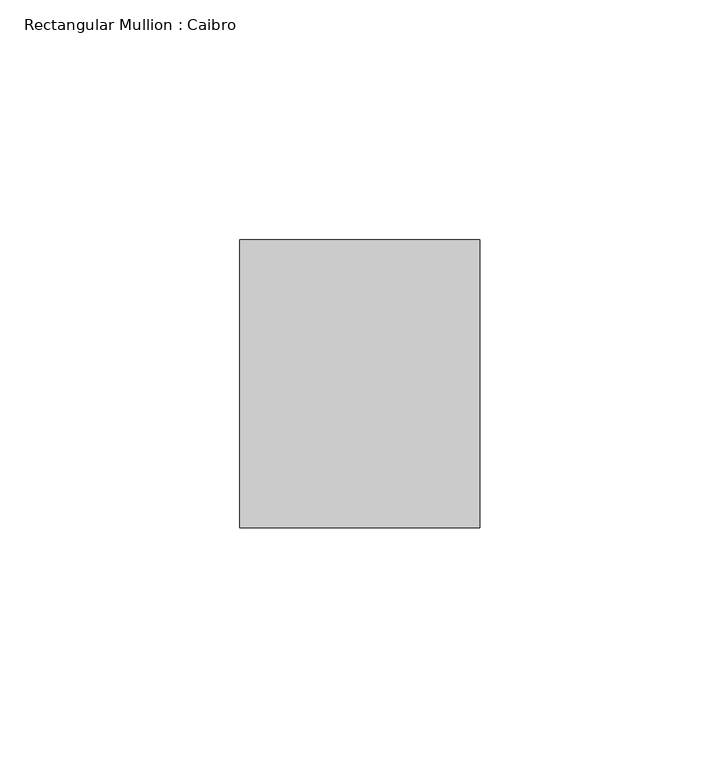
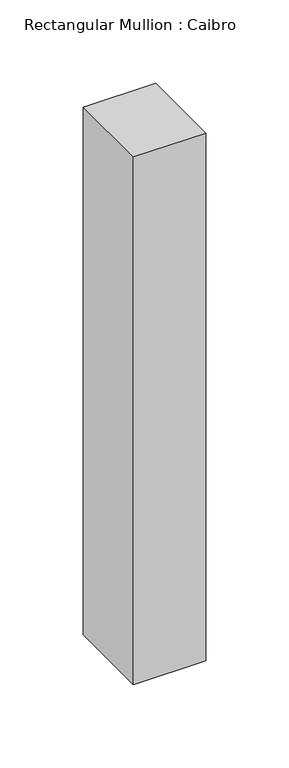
"""IFC4 building model written with IfcOpenShell, lengths in millimetres: member geometry, Rectangular Mullion : Caibro."""

import ifcopenshell
import ifcopenshell.guid

model = None  # the IFC model being written
_history = None  # IfcOwnerHistory: only IFC2X3 demands one
_inside = {}  # id of a spatial element -> (the spatial element, [elements in it])
_under = {}  # id of a project, library or spatial element -> (it, [spatial elements below it])
_declared = {}  # id of a project -> (the project, [libraries it declares])
_typed = {}  # id of a type object -> (the type object, [elements of that type])
_made_of = {}  # id of a material, layer set ... -> (it, [elements and type objects made of it])


def new_model(schema):
    """Start an empty IFC model of exactly this schema.

    Asked for "IFC4X3", IfcOpenShell would pick the latest addendum, in which some entities
    have other attributes; the version numbers below select the first issue.
    IFC2X3 requires an IfcOwnerHistory on every rooted entity: one is made here for all.
    """
    global model, _history
    if schema == "IFC4X3":
        model = ifcopenshell.file(schema_version=(4, 3, 0, 0))
    else:
        model = ifcopenshell.file(schema=schema)
    _inside.clear()
    _under.clear()
    _declared.clear()
    _typed.clear()
    _made_of.clear()
    _history = None
    if model.schema == "IFC2X3":
        org = make("IfcOrganization", Name="unknown")
        user = make(
            "IfcPersonAndOrganization",
            ThePerson=make("IfcPerson", FamilyName="unknown"),
            TheOrganization=org,
        )
        app = make(
            "IfcApplication",
            ApplicationDeveloper=org,
            Version="unknown",
            ApplicationFullName="unknown",
            ApplicationIdentifier="unknown",
        )
        _history = make(
            "IfcOwnerHistory",
            OwningUser=user,
            OwningApplication=app,
            ChangeAction="ADDED",
            CreationDate=0,
        )
    return model


def make(cls, **values):
    """One entity of the class cls with the attributes given. An attribute that is None is left unset."""
    return model.create_entity(
        cls, **{name: value for name, value in values.items() if value is not None}
    )


def rooted(cls, **values):
    """An entity with a GlobalId (a new one), such as an element, a storey or a relation."""
    return make(cls, GlobalId=ifcopenshell.guid.new(), OwnerHistory=_history, **values)


def si_unit(unit_type, name, prefix=None):
    """IfcSIUnit, for example si_unit("LENGTHUNIT", "METRE", prefix="MILLI")."""
    return make("IfcSIUnit", UnitType=unit_type, Prefix=prefix, Name=name)


def assignment(units):
    """IfcUnitAssignment: the units of a project."""
    return None if units is None else make("IfcUnitAssignment", Units=units)


def point(xyz):
    """IfcCartesianPoint."""
    return None if xyz is None else make("IfcCartesianPoint", Coordinates=xyz)


def direction(xyz):
    """IfcDirection."""
    return None if xyz is None else make("IfcDirection", DirectionRatios=xyz)


def frame(location, z_axis=None, x_axis=None):
    """IfcAxis2Placement3D, a coordinate frame: its origin and axes. An axis left out is left unset."""
    return make(
        "IfcAxis2Placement3D",
        Location=point(location),
        Axis=direction(z_axis),
        RefDirection=direction(x_axis),
    )


def origin():
    """The frame at (0, 0, 0) with its axes left unset."""
    return frame((0.0, 0.0, 0.0))


def place(relative_to, where):
    """IfcLocalPlacement: puts the frame where relative to a parent placement (None: the world)."""
    return make(
        "IfcLocalPlacement", PlacementRelTo=relative_to, RelativePlacement=where
    )


def context(
    kind, dimensions, precision=None, world=None, true_north=None, identifier=None
):
    """IfcGeometricRepresentationContext, for example the 3D "Model" context."""
    return make(
        "IfcGeometricRepresentationContext",
        ContextIdentifier=identifier,
        ContextType=kind,
        CoordinateSpaceDimension=dimensions,
        Precision=precision,
        WorldCoordinateSystem=world,
        TrueNorth=true_north,
    )


def project(units=None, contexts=None):
    """IfcProject with its units and contexts."""
    return rooted(
        "IfcProject",
        Name="project",
        RepresentationContexts=contexts,
        UnitsInContext=assignment(units),
    )


def spatial(cls, under=None, at=None, **own):
    """A site, building, storey or space (cls), placed at a placement, below another one or the project."""
    s = rooted(cls, ObjectPlacement=at, **own)
    if under is not None:
        _under.setdefault(under.id(), (under, []))[1].append(s)
    return s


def polyline(points):
    """IfcPolyline through the points."""
    return make("IfcPolyline", Points=[point(p) for p in points])


def outline(outer, holes=None, kind="AREA"):
    """IfcArbitraryClosedProfileDef: a profile drawn as a closed curve; with holes, ...WithVoids."""
    if holes is None:
        return make("IfcArbitraryClosedProfileDef", ProfileType=kind, OuterCurve=outer)
    return make(
        "IfcArbitraryProfileDefWithVoids",
        ProfileType=kind,
        OuterCurve=outer,
        InnerCurves=holes,
    )


def extrude(swept, where, along, depth):
    """IfcExtrudedAreaSolid: the profile swept, set in the frame where, extruded along a direction by depth."""
    return make(
        "IfcExtrudedAreaSolid",
        SweptArea=swept,
        Position=where,
        ExtrudedDirection=direction(along),
        Depth=depth,
    )


def shape(context_of_items, identifier, shape_type, items):
    """IfcShapeRepresentation: the items that make up one representation, for example the "Body"."""
    return make(
        "IfcShapeRepresentation",
        ContextOfItems=context_of_items,
        RepresentationIdentifier=identifier,
        RepresentationType=shape_type,
        Items=items,
    )


def source(mapping_origin, context_of_items, identifier, shape_type, items):
    """IfcRepresentationMap: a shape defined once, which mapped items show again and again."""
    return make(
        "IfcRepresentationMap",
        MappingOrigin=mapping_origin,
        MappedRepresentation=shape(context_of_items, identifier, shape_type, items),
    )


def transform(
    local_origin,
    x_axis=None,
    y_axis=None,
    z_axis=None,
    scale=None,
    scale2=None,
    scale3=None,
    uniform=True,
):
    """IfcCartesianTransformationOperator3D, or its non-uniform kind. x_axis, y_axis, z_axis: its Axis1, 2, 3."""
    if uniform:
        return make(
            "IfcCartesianTransformationOperator3D",
            Axis1=direction(x_axis),
            Axis2=direction(y_axis),
            LocalOrigin=point(local_origin),
            Scale=scale,
            Axis3=direction(z_axis),
        )
    return make(
        "IfcCartesianTransformationOperator3DnonUniform",
        Axis1=direction(x_axis),
        Axis2=direction(y_axis),
        LocalOrigin=point(local_origin),
        Scale=scale,
        Axis3=direction(z_axis),
        Scale2=scale2,
        Scale3=scale3,
    )


def mapped(mapping_source, mapping_target):
    """IfcMappedItem: shows the shape of a source again, moved by a transform."""
    return make(
        "IfcMappedItem", MappingSource=mapping_source, MappingTarget=mapping_target
    )


def made_of(thing, what):
    """Note that an element or type object is made of a material, layer set ...; save() writes the relation."""
    if what is not None:
        _made_of.setdefault(what.id(), (what, []))[1].append(thing)
    return thing


def element(
    cls,
    number,
    at=None,
    inside=None,
    cuts=None,
    type_object=None,
    material=None,
    context=None,
    identifier="Body",
    shape_type=None,
    held_by="IfcProductDefinitionShape",
    body=None,
    shapes=None,
    **own,
):
    """One element of the class cls, such as IfcWall. Its Tag is "e" and its number.

    at: its placement. inside: the storey or other place that contains it. cuts: it is an
    opening in that element (IfcRelVoidsElement). A single representation is given by context,
    identifier, shape_type and body (its items); several are given by shapes. held_by: the class
    of the entity that holds the representations. save() writes the other relations.
    """
    e = rooted(cls, Tag="e%d" % number, ObjectPlacement=at, **own)
    if body is not None:
        shapes = [shape(context, identifier, shape_type, body)]
    if shapes is not None:
        e.Representation = make(held_by, Representations=shapes)
    if inside is not None:
        _inside.setdefault(inside.id(), (inside, []))[1].append(e)
    if cuts is not None:
        rooted(
            "IfcRelVoidsElement", RelatingBuildingElement=cuts, RelatedOpeningElement=e
        )
    if type_object is not None:
        _typed.setdefault(type_object.id(), (type_object, []))[1].append(e)
    return made_of(e, material)


def aggregate(whole, parts):
    """IfcRelAggregates: a whole, such as a stair, and the parts it consists of."""
    return rooted("IfcRelAggregates", RelatingObject=whole, RelatedObjects=parts)


def save(model, path):
    """Write the relations noted so far, then the file.

    IfcRelAggregates (storeys below a building ...), IfcRelContainedInSpatialStructure (elements
    in a storey), IfcRelDefinesByType, IfcRelAssociatesMaterial and IfcRelDeclares: one each for
    every whole, place, type object, material and project.
    """
    for whole, parts in _under.values():
        aggregate(whole, parts)
    for where, things in _inside.values():
        rooted(
            "IfcRelContainedInSpatialStructure",
            RelatedElements=things,
            RelatingStructure=where,
        )
    for kind, things in _typed.values():
        rooted("IfcRelDefinesByType", RelatedObjects=things, RelatingType=kind)
    for what, things in _made_of.values():
        rooted("IfcRelAssociatesMaterial", RelatedObjects=things, RelatingMaterial=what)
    for by, libraries in _declared.values():
        rooted("IfcRelDeclares", RelatingContext=by, RelatedDefinitions=libraries)
    model.write(path)


def rectangular_mullion_caibro_7d910be2(model_context):
    return source(origin(), model_context, "Body", "SweptSolid", [
        extrude(outline(polyline([(-50.0, -60.0), (-50.0, 0.0), (0.0, 0.0), (0.0, -60.0), (-50.0, -60.0)])), frame((0.0, 0.0, -386.4764043), z_axis=(0.0, 0.0, 1.0), x_axis=(1.0, 0.0, 0.0)), (0.0, 0.0, 1.0), 386.4764043),
    ])


if __name__ == "__main__":
    model = new_model("IFC4")
    model_context = context("Model", 3, world=origin())
    ifc_project = project(units=[si_unit("LENGTHUNIT", "METRE", prefix="MILLI")], contexts=[model_context])
    site = spatial("IfcSite", under=ifc_project)
    building = spatial("IfcBuilding", under=site)
    placement = place(None, origin())
    rectangular_mullion_caibro_shape = rectangular_mullion_caibro_7d910be2(model_context)
    element("IfcMember", 1, ObjectType="Rectangular Mullion : Caibro", at=placement, inside=building, context=model_context, shape_type="MappedRepresentation", body=[
        mapped(rectangular_mullion_caibro_shape, transform((0.0, 0.0, 0.0), x_axis=(1.0, 0.0, 0.0), y_axis=(0.0, 1.0, 0.0), z_axis=(0.0, 0.0, 1.0))),
    ])
    save(model, "model.ifc")
